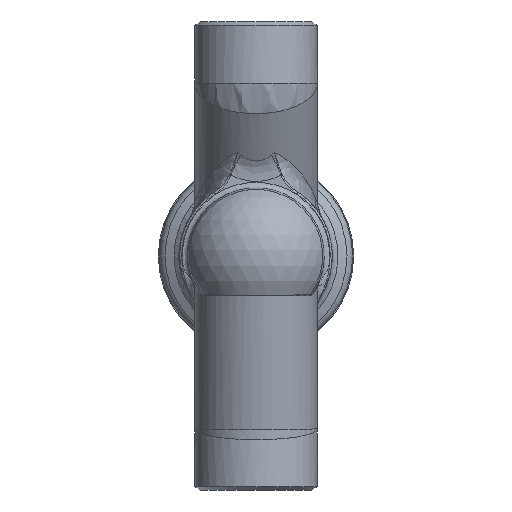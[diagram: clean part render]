
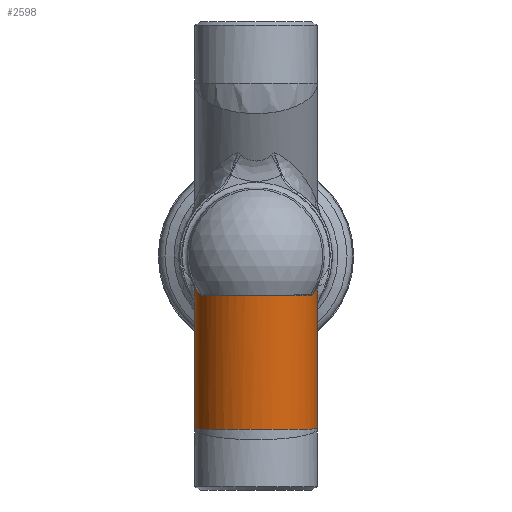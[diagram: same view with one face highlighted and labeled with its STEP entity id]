
A CAD part, front view. The second image highlights one B-rep face of the part: STEP entity #2598.
In plain terms, the highlighted cylindrical face has radius 30.15 mm (diameter 60.3 mm), a full revolution.
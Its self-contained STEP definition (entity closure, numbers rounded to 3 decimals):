
#310=CARTESIAN_POINT('',(-28.475,19.117,-17.964));
#311=VERTEX_POINT('',#310);
#330=CARTESIAN_POINT('',(-30.036,26.003,-15.061));
#331=VERTEX_POINT('',#330);
#339=CARTESIAN_POINT('',(-30.036,26.003,-15.061));
#340=CARTESIAN_POINT('',(-29.813,23.497,-15.519));
#341=CARTESIAN_POINT('',(-29.261,21.18,-16.651));
#342=CARTESIAN_POINT('',(-28.475,19.117,-17.964));
#343=B_SPLINE_CURVE_WITH_KNOTS('',3,(#339,#340,#341,#342),.UNSPECIFIED.,.F.,.U.,(4,4),(0.0,0.793),.UNSPECIFIED.);
#344=EDGE_CURVE('',#331,#311,#343,.T.);
#366=CARTESIAN_POINT('',(-26.648,15.099,-19.327));
#367=VERTEX_POINT('',#366);
#385=CARTESIAN_POINT('',(-28.475,19.117,-17.964));
#386=CARTESIAN_POINT('',(-27.998,17.866,-18.76));
#387=CARTESIAN_POINT('',(-27.368,16.473,-19.284));
#388=CARTESIAN_POINT('',(-26.648,15.099,-19.327));
#389=B_SPLINE_CURVE_WITH_KNOTS('',3,(#385,#386,#387,#388),.UNSPECIFIED.,.F.,.U.,(4,4),(-0.481,0.0),.UNSPECIFIED.);
#390=EDGE_CURVE('',#311,#367,#389,.T.);
#444=CARTESIAN_POINT('',(26.648,15.099,-19.327));
#445=VERTEX_POINT('',#444);
#471=CARTESIAN_POINT('',(-26.648,15.099,-19.327));
#472=CARTESIAN_POINT('',(-25.206,12.348,-19.414));
#473=CARTESIAN_POINT('',(-22.355,8.491,-19.513));
#474=CARTESIAN_POINT('',(-17.609,4.465,-19.589));
#475=CARTESIAN_POINT('',(-12.225,1.175,-19.636));
#476=CARTESIAN_POINT('',(-6.246,-0.771,-19.651));
#477=CARTESIAN_POINT('',(0.044,-1.261,-19.654));
#478=CARTESIAN_POINT('',(6.266,-0.764,-19.651));
#479=CARTESIAN_POINT('',(13.809,1.703,-19.632));
#480=CARTESIAN_POINT('',(21.447,7.254,-19.546));
#481=CARTESIAN_POINT('',(25.206,12.348,-19.414));
#482=CARTESIAN_POINT('',(26.648,15.099,-19.327));
#483=B_SPLINE_CURVE_WITH_KNOTS('',3,(#471,#472,#473,#474,#475,#476,#477,#478,#479,#480,#481,#482),.UNSPECIFIED.,.F.,.U.,(4,1,1,1,1,1,1,1,1,4),(0.0,0.963,1.444,1.925,2.888,3.369,3.85,4.813,5.775,6.738),.UNSPECIFIED.);
#484=EDGE_CURVE('',#367,#445,#483,.T.);
#506=CARTESIAN_POINT('',(28.475,19.117,-17.964));
#507=VERTEX_POINT('',#506);
#525=CARTESIAN_POINT('',(26.648,15.099,-19.327));
#526=CARTESIAN_POINT('',(27.368,16.473,-19.284));
#527=CARTESIAN_POINT('',(27.998,17.866,-18.76));
#528=CARTESIAN_POINT('',(28.475,19.117,-17.964));
#529=B_SPLINE_CURVE_WITH_KNOTS('',3,(#525,#526,#527,#528),.UNSPECIFIED.,.F.,.U.,(4,4),(-0.481,0.0),.UNSPECIFIED.);
#530=EDGE_CURVE('',#445,#507,#529,.T.);
#552=CARTESIAN_POINT('',(30.036,26.003,-15.061));
#553=VERTEX_POINT('',#552);
#571=CARTESIAN_POINT('',(28.475,19.117,-17.964));
#572=CARTESIAN_POINT('',(29.261,21.18,-16.65));
#573=CARTESIAN_POINT('',(29.813,23.496,-15.519));
#574=CARTESIAN_POINT('',(30.036,26.003,-15.061));
#575=B_SPLINE_CURVE_WITH_KNOTS('',3,(#571,#572,#573,#574),.UNSPECIFIED.,.F.,.U.,(4,4),(0.0,0.793),.UNSPECIFIED.);
#576=EDGE_CURVE('',#507,#553,#575,.T.);
#808=CARTESIAN_POINT('',(30.117,31.725,-24.303));
#809=VERTEX_POINT('',#808);
#810=CARTESIAN_POINT('',(30.036,26.003,-15.061));
#811=CARTESIAN_POINT('',(30.033,26.263,-16.732));
#812=CARTESIAN_POINT('',(30.047,26.891,-19.521));
#813=CARTESIAN_POINT('',(30.128,28.572,-22.52));
#814=CARTESIAN_POINT('',(30.159,30.257,-23.913));
#815=CARTESIAN_POINT('',(30.139,31.236,-24.247));
#816=CARTESIAN_POINT('',(30.117,31.725,-24.303));
#817=B_SPLINE_CURVE_WITH_KNOTS('',3,(#810,#811,#812,#813,#814,#815,#816),.UNSPECIFIED.,.F.,.U.,(4,1,1,1,4),(-1.202,-0.7,-0.35,-0.175,0.0),.UNSPECIFIED.);
#818=EDGE_CURVE('',#553,#809,#817,.T.);
#948=CARTESIAN_POINT('',(-30.117,31.725,-24.303));
#949=VERTEX_POINT('',#948);
#979=CARTESIAN_POINT('',(30.117,31.725,-24.303));
#980=CARTESIAN_POINT('',(30.007,34.172,-24.581));
#981=CARTESIAN_POINT('',(29.235,39.02,-26.131));
#982=CARTESIAN_POINT('',(26.91,45.508,-29.803));
#983=CARTESIAN_POINT('',(23.615,51.355,-33.869));
#984=CARTESIAN_POINT('',(19.733,55.964,-37.448));
#985=CARTESIAN_POINT('',(14.521,60.361,-41.026));
#986=CARTESIAN_POINT('',(8.82,63.27,-43.501));
#987=CARTESIAN_POINT('',(0.836,64.846,-44.855));
#988=CARTESIAN_POINT('',(-6.622,64.083,-44.198));
#989=CARTESIAN_POINT('',(-13.866,60.776,-41.374));
#990=CARTESIAN_POINT('',(-21.077,55.087,-36.716));
#991=CARTESIAN_POINT('',(-26.149,47.645,-31.015));
#992=CARTESIAN_POINT('',(-29.239,38.996,-26.119));
#993=CARTESIAN_POINT('',(-30.007,34.172,-24.581));
#994=CARTESIAN_POINT('',(-30.117,31.725,-24.303));
#995=B_SPLINE_CURVE_WITH_KNOTS('',3,(#979,#980,#981,#982,#983,#984,#985,#986,#987,#988,#989,#990,#991,#992,#993,#994),.UNSPECIFIED.,.F.,.U.,(4,1,1,1,1,1,1,1,1,1,1,1,1,4),(0.0,0.876,1.752,2.628,3.504,4.087,5.255,5.839,7.007,7.883,8.759,10.511,11.386,12.262),.UNSPECIFIED.);
#996=EDGE_CURVE('',#809,#949,#995,.T.);
#1058=CARTESIAN_POINT('',(-30.117,31.725,-24.303));
#1059=CARTESIAN_POINT('',(-30.139,31.236,-24.247));
#1060=CARTESIAN_POINT('',(-30.166,29.756,-23.739));
#1061=CARTESIAN_POINT('',(-30.095,27.868,-21.572));
#1062=CARTESIAN_POINT('',(-30.039,26.632,-18.369));
#1063=CARTESIAN_POINT('',(-30.034,26.173,-16.149));
#1064=CARTESIAN_POINT('',(-30.036,26.003,-15.061));
#1065=B_SPLINE_CURVE_WITH_KNOTS('',3,(#1058,#1059,#1060,#1061,#1062,#1063,#1064),.UNSPECIFIED.,.F.,.U.,(4,1,1,1,4),(-2.177,-2.002,-1.652,-1.302,-0.974),.UNSPECIFIED.);
#1066=EDGE_CURVE('',#949,#331,#1065,.T.);
#2552=CARTESIAN_POINT('',(30.15,41.,-85.0));
#2553=VERTEX_POINT('',#2552);
#2554=CARTESIAN_POINT('',(-30.15,41.,-85.));
#2555=VERTEX_POINT('',#2554);
#2556=CARTESIAN_POINT('',(0.,41.,-85.));
#2557=DIRECTION('',(0.,0.002,-1.));
#2558=DIRECTION('',(0.0,-1.,-0.002));
#2559=AXIS2_PLACEMENT_3D('',#2556,#2557,#2558);
#2560=ELLIPSE('',#2559,30.606,30.15);
#2561=EDGE_CURVE('',#2553,#2555,#2560,.T.);
#2573=CARTESIAN_POINT('',(0.,41.0,-85.0));
#2574=DIRECTION('',(0.0,-0.174,0.985));
#2575=DIRECTION('',(-1.0,0.0,0.0));
#2576=AXIS2_PLACEMENT_3D('',#2573,#2574,#2575);
#2577=CYLINDRICAL_SURFACE('',#2576,30.15);
#2578=ORIENTED_EDGE('',*,*,#344,.F.);
#2579=ORIENTED_EDGE('',*,*,#1066,.F.);
#2580=ORIENTED_EDGE('',*,*,#996,.F.);
#2581=ORIENTED_EDGE('',*,*,#818,.F.);
#2582=ORIENTED_EDGE('',*,*,#576,.F.);
#2583=ORIENTED_EDGE('',*,*,#530,.F.);
#2584=ORIENTED_EDGE('',*,*,#484,.F.);
#2585=ORIENTED_EDGE('',*,*,#390,.F.);
#2586=EDGE_LOOP('',(#2578,#2579,#2580,#2581,#2582,#2583,#2584,#2585));
#2587=FACE_OUTER_BOUND('',#2586,.T.);
#2588=ORIENTED_EDGE('',*,*,#2561,.F.);
#2589=CARTESIAN_POINT('',(0.,41.,-85.));
#2590=DIRECTION('',(0.0,0.173,-0.985));
#2591=DIRECTION('',(0.0,0.985,0.173));
#2592=AXIS2_PLACEMENT_3D('',#2589,#2590,#2591);
#2593=ELLIPSE('',#2592,30.15,30.15);
#2594=EDGE_CURVE('',#2555,#2553,#2593,.T.);
#2595=ORIENTED_EDGE('',*,*,#2594,.F.);
#2596=EDGE_LOOP('',(#2588,#2595));
#2597=FACE_BOUND('',#2596,.T.);
#2598=ADVANCED_FACE('',(#2587,#2597),#2577,.T.);
